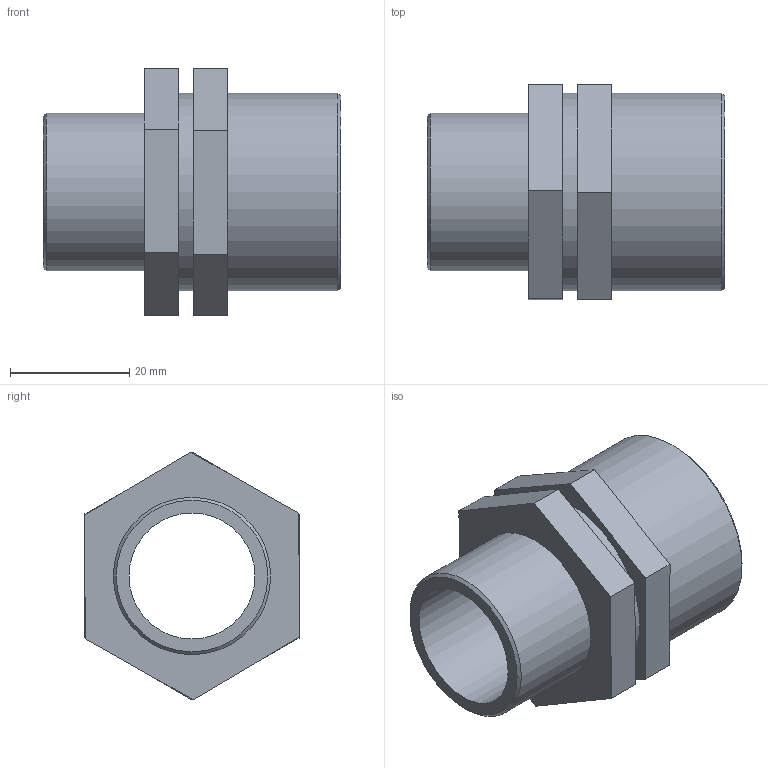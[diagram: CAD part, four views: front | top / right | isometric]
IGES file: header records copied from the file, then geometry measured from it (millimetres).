
Global section: file name: 050605010007_0506050100070A.ipt; native system: Autodesk Inventor 2015; preprocessor: unknown; author: KIM; date: 20170618.093225; units: millimetre
Bounding box: 50 x 36.19 x 41.57 mm (x, y, z)
Volume: 17749 mm3; surface area: 10875.5 mm2
Topology: 1 solids, 1 shells, 26 faces, 59 edges, 40 vertices
Faces by surface type: plane 19, cylinder 3, cone 2, revolution 2
Full cylindrical faces by diameter (mm): 26.441 x1, 33.249 x2
